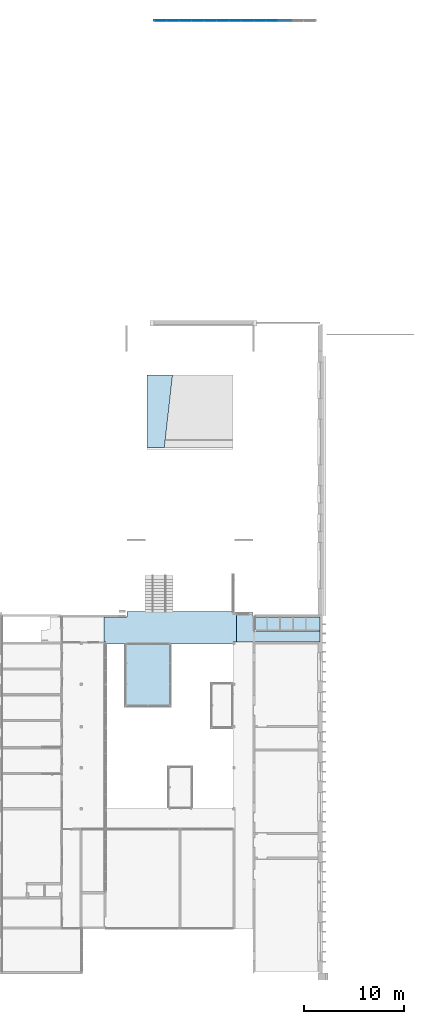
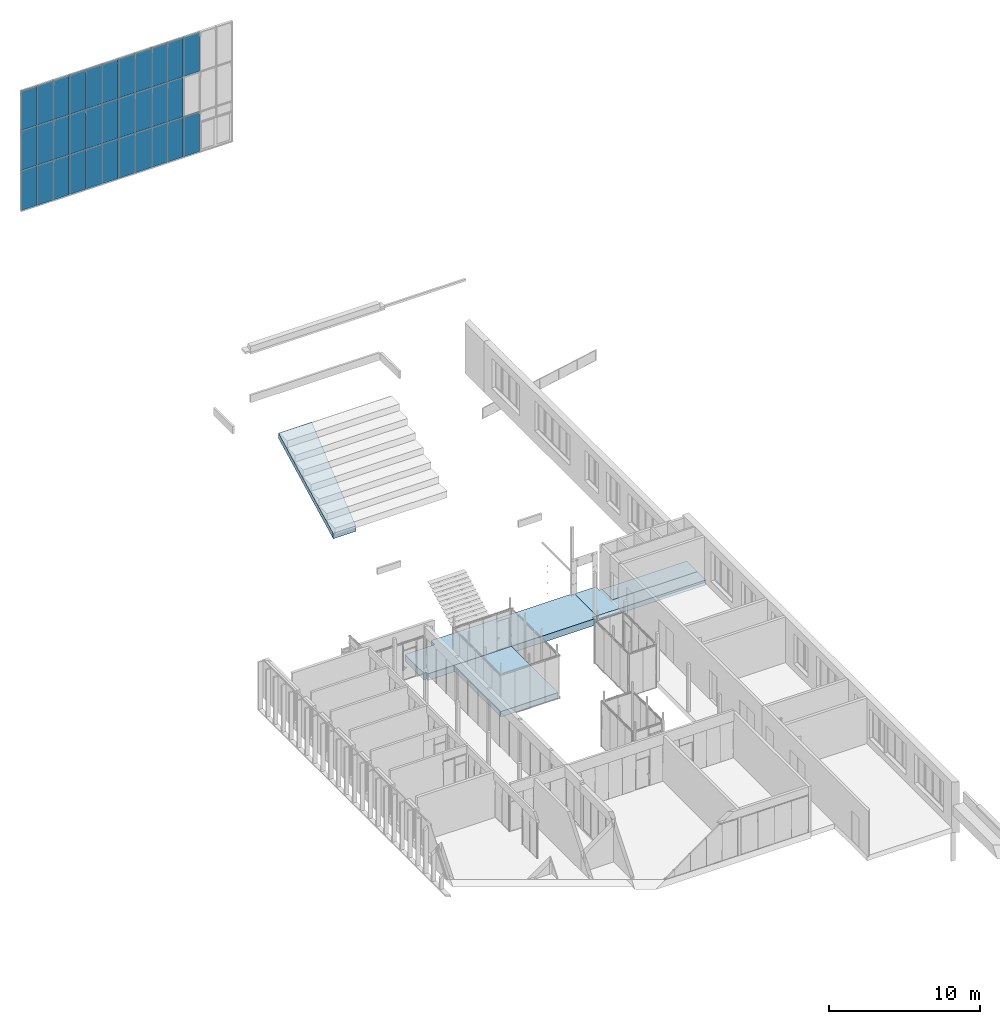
# One storey, part 26 of 387: 32 plates, 5 slabs, 1 element without a shape of its own.
"""IFC2X3 building model written with IfcOpenShell, lengths in millimetres."""

from ifc_helpers import new_model, entity, si_unit, converted_unit, derived_unit, money_unit, direction, frame, origin_with_axes, place, context, subcontext, project, spatial, polyline, outline, extrude, material, layer, layer_set, layer_usage, type_object, element, aggregate, save


model = new_model("IFC2X3")

# Units and contexts
model_context = context("Model", 3, precision=0.01, world=origin_with_axes(), true_north=direction((0.0, 1.0)))
body_context = subcontext(model_context, "Body", "Model", "MODEL_VIEW")
ifc_project = project(units=[si_unit("LENGTHUNIT", "METRE", prefix="MILLI"), si_unit("AREAUNIT", "SQUARE_METRE"), si_unit("VOLUMEUNIT", "CUBIC_METRE"), converted_unit("PLANEANGLEUNIT", "DEGREE", entity("IfcPlaneAngleMeasure", 0.0174532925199), si_unit("PLANEANGLEUNIT", "RADIAN"), dimensions=[0, 0, 0, 0, 0, 0, 0]), si_unit("SOLIDANGLEUNIT", "STERADIAN"), money_unit("EUR"), converted_unit("TIMEUNIT", "Year", entity("IfcTimeMeasure", 31556926.0), si_unit("TIMEUNIT", "SECOND"), dimensions=[0, 0, 1, 0, 0, 0, 0]), si_unit("MASSUNIT", "GRAM", prefix="KILO"), si_unit("THERMODYNAMICTEMPERATUREUNIT", "DEGREE_CELSIUS"), si_unit("LUMINOUSINTENSITYUNIT", "LUMEN"), si_unit("ENERGYUNIT", "JOULE", prefix="MEGA"), derived_unit("THERMALCONDUCTANCEUNIT", [(si_unit("POWERUNIT", "WATT"), 1), (si_unit("LENGTHUNIT", "METRE"), -1), (si_unit("THERMODYNAMICTEMPERATUREUNIT", "KELVIN"), -1)]), derived_unit("SPECIFICHEATCAPACITYUNIT", [(si_unit("ENERGYUNIT", "JOULE"), 1), (si_unit("MASSUNIT", "GRAM", prefix="KILO"), -1), (si_unit("THERMODYNAMICTEMPERATUREUNIT", "KELVIN"), -1)]), derived_unit("MASSDENSITYUNIT", [(si_unit("MASSUNIT", "GRAM", prefix="KILO"), 1), (si_unit("VOLUMEUNIT", "CUBIC_METRE"), -1)])], contexts=[model_context])

# Site, building, storey
site_placement = place(None, origin_with_axes())
site = spatial("IfcSite", under=ifc_project, at=site_placement, Name="Puškini 31, Narva", CompositionType="ELEMENT")
building_placement = place(site_placement, origin_with_axes())
building = spatial("IfcBuilding", under=site, at=building_placement, Name="Narva Riigigümnaasium", CompositionType="ELEMENT")
storey_placement = place(building_placement, frame((0.0, 0.0, 2640.0), z_axis=(0.0, 0.0, 1.0), x_axis=(1.0, 0.0, 0.0)))
storey = spatial("IfcBuildingStorey", under=building, at=storey_placement, Name="2.korrus +2.64", CompositionType="ELEMENT", Elevation=2640.0)

# Curtain wall, plates
curtain_wall_type = type_object("IfcCurtainWallType", Name="Curtain Wall Type", PredefinedType="NOTDEFINED")
curtain_wall_placement = place(storey_placement, frame((50893.5555569, 254360.0, -2029.99998222), z_axis=(0.0, 0.0, 1.0), x_axis=(1.0, 0.0, 0.0)))
curtain_wall = element("IfcCurtainWall", 1, at=curtain_wall_placement, inside=storey, type_object=curtain_wall_type, Name="G-KLF-06")
ifc_material_1 = material(Name="Klaas")
plate_type_1 = type_object("IfcPlateType", Name="Main Panel 1235 x 168 x 58", PredefinedType="CURTAIN_PANEL")
plate_1_placement = place(curtain_wall_placement, frame((0.0, 0.0, 1966.29629224), z_axis=(0.0, 0.0, 1.0), x_axis=(1.0, 0.0, 0.0)))
plate_1 = element("IfcPlate", 2, at=plate_1_placement, type_object=plate_type_1, material=ifc_material_1, Name="G-KLF-05-VU-01", ObjectType="CURTAIN_PANEL", context=body_context, shape_type="SweptSolid", body=[
    extrude(outline(polyline([(-820.222198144, -1312.03707306), (414.444443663, -1312.03707306), (414.444443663, -483.703685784), (406.444453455, -483.703685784), (406.444453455, 1931.29630446), (-820.222198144, 1931.29630446), (-820.222198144, -1312.03707306)])), frame((0.0, -29.0000000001, 0.0), z_axis=(0.0, 1.0, 0.0), x_axis=(1.0, 0.0, 0.0)), (0.0, 0.0, 1.0), 58.0),
])
plate_type_2 = type_object("IfcPlateType", Name="Main Panel 1224 x 168 x 58", PredefinedType="CURTAIN_PANEL")
plate_2_placement = place(curtain_wall_placement, frame((-7685.55555964, 0.0, 2132.77777223), z_axis=(0.0, 0.0, 1.0), x_axis=(1.0, 0.0, 0.0)))
plate_2 = element("IfcPlate", 3, at=plate_2_placement, type_object=plate_type_2, material=ifc_material_1, Name="klaasfassaadi klaas", ObjectType="CURTAIN_PANEL", context=body_context, shape_type="SweptSolid", body=[
    extrude(outline(polyline([(-611.999999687, -1145.55559307), (612.000021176, -1145.55559307), (612.000021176, 2097.77778445), (-611.999999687, 2097.77778445), (-611.999999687, -1145.55559307)])), frame((0.0, -29.0, 0.0), z_axis=(0.0, 1.0, 0.0), x_axis=(1.0, 0.0, 0.0)), (0.0, 0.0, 1.0), 58.0),
])
plate_type_3 = type_object("IfcPlateType", Name="Main Panel 1226 x 168 x 58", PredefinedType="CURTAIN_PANEL")
plate_3_placement = place(curtain_wall_placement, frame((-8930.5555564, 0.0, 2132.77777223), z_axis=(0.0, 0.0, 1.0), x_axis=(1.0, 0.0, 0.0)))
plate_3 = element("IfcPlate", 4, at=plate_3_placement, type_object=plate_type_3, material=ifc_material_1, Name="klaasfassaadi klaas", ObjectType="CURTAIN_PANEL", context=body_context, shape_type="SweptSolid", body=[
    extrude(outline(polyline([(-612.999981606, -1145.55559307), (613.000024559, -1145.55559307), (613.000024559, 2097.77778445), (-612.999981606, 2097.77778445), (-612.999981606, -1145.55559307)])), frame((0.0, -29.0, 0.0), z_axis=(0.0, 1.0, 0.0), x_axis=(1.0, 0.0, 0.0)), (0.0, 0.0, 1.0), 58.0),
])
plate_4_placement = place(curtain_wall_placement, frame((-5192.55555598, 0.0, 2132.77777223), z_axis=(0.0, 0.0, 1.0), x_axis=(1.0, 0.0, 0.0)))
plate_4 = element("IfcPlate", 5, at=plate_4_placement, type_object=plate_type_3, material=ifc_material_1, Name="klaasfassaadi klaas", ObjectType="CURTAIN_PANEL", context=body_context, shape_type="SweptSolid", body=[
    extrude(outline(polyline([(-612.999981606, -1145.55559307), (613.000024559, -1145.55559307), (613.000024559, 2097.77778445), (-612.999981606, 2097.77778445), (-612.999981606, -1145.55559307)])), frame((0.0, -29.0, 0.0), z_axis=(0.0, 1.0, 0.0), x_axis=(1.0, 0.0, 0.0)), (0.0, 0.0, 1.0), 58.0),
])
plate_type_4 = type_object("IfcPlateType", Name="Main Panel 1230 x 168 x 58", PredefinedType="CURTAIN_PANEL")
plate_5_placement = place(curtain_wall_placement, frame((-10333.8055547, 0.0, 2010.62499678), z_axis=(0.0, 0.0, 1.0), x_axis=(1.0, 0.0, 0.0)))
plate_5 = element("IfcPlate", 6, at=plate_5_placement, type_object=plate_type_4, material=ifc_material_1, Name="klaasfassaadi klaas", ObjectType="CURTAIN_PANEL", context=body_context, shape_type="SweptSolid", body=[
    extrude(outline(polyline([(-459.750003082, -1267.70836852), (770.250022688, -1267.70836852), (770.250022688, 1975.62500899), (-459.750003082, 1975.62500899), (-459.750003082, -1267.70836852)])), frame((0.0, -29.0000000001, 0.0), z_axis=(0.0, 1.0, 0.0), x_axis=(1.0, 0.0, 0.0)), (0.0, 0.0, 1.0), 58.0),
])
plate_type_5 = type_object("IfcPlateType", Name="Main Panel 1227 x 168 x 58", PredefinedType="CURTAIN_PANEL")
plate_6_placement = place(curtain_wall_placement, frame((-1298.05554565, 0.0, 2010.62499678), z_axis=(0.0, 0.0, 1.0), x_axis=(1.0, 0.0, 0.0)))
plate_6 = element("IfcPlate", 7, at=plate_6_placement, type_object=plate_type_5, material=ifc_material_1, Name="klaasfassaadi klaas", ObjectType="CURTAIN_PANEL", context=body_context, shape_type="SweptSolid", body=[
    extrude(outline(polyline([(-768.833342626, -1267.70836852), (457.833357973, -1267.70836852), (457.833357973, 1975.62500899), (-768.833342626, 1975.62500899), (-768.833342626, -1267.70836852)])), frame((0.0, -29.0000000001, 0.0), z_axis=(0.0, 1.0, 0.0), x_axis=(1.0, 0.0, 0.0)), (0.0, 0.0, 1.0), 58.0),
])
plate_type_6 = type_object("IfcPlateType", Name="Main Panel 1172 x 168 x 58", PredefinedType="CURTAIN_PANEL")
plate_7_placement = place(curtain_wall_placement, frame((-2523.93055109, 0.0, 2010.62499678), z_axis=(0.0, 0.0, 1.0), x_axis=(1.0, 0.0, 0.0)))
plate_7 = element("IfcPlate", 8, at=plate_7_placement, type_object=plate_type_6, material=ifc_material_1, Name="klaasfassaadi klaas", ObjectType="CURTAIN_PANEL", context=body_context, shape_type="SweptSolid", body=[
    extrude(outline(polyline([(-734.625009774, -1267.70836852), (437.041703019, -1267.70836852), (437.041703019, 1975.62500899), (-734.625009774, 1975.62500899), (-734.625009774, -1267.70836852)])), frame((0.0, -29.0000000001, 0.0), z_axis=(0.0, 1.0, 0.0), x_axis=(1.0, 0.0, 0.0)), (0.0, 0.0, 1.0), 58.0),
])
plate_type_7 = type_object("IfcPlateType", Name="Main Panel 45 x 168 x 58", PredefinedType="CURTAIN_PANEL")
plate_8_placement = place(curtain_wall_placement, frame((-3770.18055738, 0.0, 2010.62499678), z_axis=(0.0, 0.0, 1.0), x_axis=(1.0, 0.0, 0.0)))
plate_8 = element("IfcPlate", 9, at=plate_8_placement, type_object=plate_type_7, material=ifc_material_1, Name="klaasfassaadi klaas", ObjectType="CURTAIN_PANEL", context=body_context, shape_type="SweptSolid", body=[
    extrude(outline(polyline([(-789.375016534, -1267.70836852), (491.624977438, -1267.70836852), (491.625026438, 1975.62500899), (-789.375016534, 1975.62500899), (-789.375016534, -1267.70836852)])), frame((0.0, -29.0000000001, 0.0), z_axis=(0.0, 1.0, 0.0), x_axis=(1.0, 0.0, 0.0)), (0.0, 0.0, 1.0), 58.0),
])
plate_type_8 = type_object("IfcPlateType", Name="Main Panel 12 x 178 x 58", PredefinedType="CURTAIN_PANEL")
plate_9_placement = place(curtain_wall_placement, frame((-6510.8518564, 0.0, 2152.59259056), z_axis=(0.0, 0.0, 1.0), x_axis=(1.0, 0.0, 0.0)))
plate_9 = element("IfcPlate", 10, at=plate_9_placement, type_object=plate_type_8, material=ifc_material_1, Name="klaasfassaadi klaas", ObjectType="CURTAIN_PANEL", context=body_context, shape_type="SweptSolid", body=[
    extrude(outline(polyline([(673.629613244, -1135.74075025), (685.29632484, -1135.74075025), (685.29632484, 2117.59260277), (-542.703715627, 2117.59260277), (-542.703715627, -1125.74077474), (673.629613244, -1125.74077474), (673.629613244, -1135.74075025)])), frame((0.0, -29.0000000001, 0.0), z_axis=(0.0, 1.0, 0.0), x_axis=(1.0, 0.0, 0.0)), (0.0, 0.0, 1.0), 58.0),
])
plate_type_9 = type_object("IfcPlateType", Name="Main Panel 1225 x 168 x 58", PredefinedType="CURTAIN_PANEL")
plate_10_placement = place(curtain_wall_placement, frame((-11580.93056, 0.0, 2010.62499677), z_axis=(0.0, 0.0, 1.0), x_axis=(1.0, 0.0, 0.0)))
plate_10 = element("IfcPlate", 11, at=plate_10_placement, type_object=plate_type_9, material=ifc_material_1, Name="klaasfassaadi klaas", ObjectType="CURTAIN_PANEL", context=body_context, shape_type="SweptSolid", body=[
    extrude(outline(polyline([(-457.625029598, -1267.70836854), (767.375032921, -1267.70836854), (767.375032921, 1975.62500899), (-457.625029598, 1975.62500899), (-457.625029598, -1267.70836854)])), frame((0.0, -29.0000000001, 0.0), z_axis=(0.0, 1.0, 0.0), x_axis=(1.0, 0.0, 0.0)), (0.0, 0.0, 1.0), 58.0),
])
plate_type_10 = type_object("IfcPlateType", Name="Main Panel 1198 x 168 x 58", PredefinedType="CURTAIN_PANEL")
plate_11_placement = place(curtain_wall_placement, frame((-12670.0555637, 0.0, 2132.7777719), z_axis=(0.0, 0.0, 1.0), x_axis=(1.0, 0.0, 0.0)))
plate_11 = element("IfcPlate", 12, at=plate_11_placement, type_object=plate_type_10, material=ifc_material_1, Name="klaasfassaadi klaas", ObjectType="CURTAIN_PANEL", context=body_context, shape_type="SweptSolid", body=[
    extrude(outline(polyline([(-586.499998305, -1145.5555444), (611.50001763, -1145.5555934), (611.50001763, 2097.77778411), (-586.499998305, 2097.77778411), (-586.499998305, -1145.5555444)])), frame((0.0, -29.0, 0.0), z_axis=(0.0, 1.0, 0.0), x_axis=(1.0, 0.0, 0.0)), (0.0, 0.0, 1.0), 58.0),
])
plate_type_11 = type_object("IfcPlateType", Name="Main Panel 1225 x 340 x 58", PredefinedType="CURTAIN_PANEL")
plate_12_placement = place(curtain_wall_placement, frame((-207.88888546, 0.0, 8560.55555302), z_axis=(0.0, 0.0, 1.0), x_axis=(1.0, 0.0, 0.0)))
plate_12 = element("IfcPlate", 13, at=plate_12_placement, type_object=plate_type_11, material=ifc_material_1, Name="klaasfassaadi klaas", ObjectType="CURTAIN_PANEL", context=body_context, shape_type="SweptSolid", body=[
    extrude(outline(polyline([(-612.333317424, -1169.44444398), (612.3333073, -1169.44444398), (612.3333073, -829.444440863), (622.3333301, -829.444440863), (622.3333301, 2023.88885146), (-612.333317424, 2023.88885146), (-612.333317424, -1169.44444398)])), frame((0.0, -29.0, 0.0), z_axis=(0.0, 1.0, 0.0), x_axis=(1.0, 0.0, 0.0)), (0.0, 0.0, 1.0), 58.0),
])
plate_13_placement = place(curtain_wall_placement, frame((-11580.9305593, 0.0, 8456.87500016), z_axis=(0.0, 0.0, 1.0), x_axis=(1.0, 0.0, 0.0)))
plate_13 = element("IfcPlate", 14, at=plate_13_placement, type_object=plate_type_11, material=ifc_material_1, Name="klaasfassaadi klaas", ObjectType="CURTAIN_PANEL", context=body_context, shape_type="SweptSolid", body=[
    extrude(outline(polyline([(-457.625026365, -1273.12499684), (767.374991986, -1273.12499684), (767.374991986, 1920.20829865), (-457.625026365, 1920.20829865), (-457.625026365, -1273.12499684)])), frame((0.0, -29.0000000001, 0.0), z_axis=(0.0, 1.0, 0.0), x_axis=(1.0, 0.0, 0.0)), (0.0, 0.0, 1.0), 58.0),
])
plate_type_12 = type_object("IfcPlateType", Name="Main Panel 1227 x 340 x 58", PredefinedType="CURTAIN_PANEL")
plate_14_placement = place(curtain_wall_placement, frame((-1298.05554334, 0.0, 8456.87500017), z_axis=(0.0, 0.0, 1.0), x_axis=(1.0, 0.0, 0.0)))
plate_14 = element("IfcPlate", 15, at=plate_14_placement, type_object=plate_type_12, material=ifc_material_1, Name="klaasfassaadi klaas", ObjectType="CURTAIN_PANEL", context=body_context, shape_type="SweptSolid", body=[
    extrude(outline(polyline([(-768.8333414, -1273.12499684), (457.833307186, -1273.12499684), (457.833307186, 1920.2082986), (-768.833293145, 1920.2082986), (-768.8333414, -1273.12499684)])), frame((0.0, -29.0000000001, 0.0), z_axis=(0.0, 1.0, 0.0), x_axis=(1.0, 0.0, 0.0)), (0.0, 0.0, 1.0), 58.0),
])
plate_type_13 = type_object("IfcPlateType", Name="Main Panel 1172 x 340 x 58", PredefinedType="CURTAIN_PANEL")
plate_15_placement = place(curtain_wall_placement, frame((-2523.9305506, 0.0, 8456.87500017), z_axis=(0.0, 0.0, 1.0), x_axis=(1.0, 0.0, 0.0)))
plate_15 = element("IfcPlate", 16, at=plate_15_placement, type_object=plate_type_13, material=ifc_material_1, Name="klaasfassaadi klaas", ObjectType="CURTAIN_PANEL", context=body_context, shape_type="SweptSolid", body=[
    extrude(outline(polyline([(-734.625021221, -1273.12499684), (437.041670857, -1273.12499684), (437.041670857, 1920.2082986), (-734.625021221, 1920.2082986), (-734.625021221, -1273.12499684)])), frame((0.0, -29.0000000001, 0.0), z_axis=(0.0, 1.0, 0.0), x_axis=(1.0, 0.0, 0.0)), (0.0, 0.0, 1.0), 58.0),
])
plate_type_14 = type_object("IfcPlateType", Name="Main Panel 1226 x 340 x 58", PredefinedType="CURTAIN_PANEL")
plate_16_placement = place(curtain_wall_placement, frame((-8930.5555564, 0.0, 8560.55555302), z_axis=(0.0, 0.0, 1.0), x_axis=(1.0, 0.0, 0.0)))
plate_16 = element("IfcPlate", 17, at=plate_16_placement, type_object=plate_type_14, material=ifc_material_1, Name="klaasfassaadi klaas", ObjectType="CURTAIN_PANEL", context=body_context, shape_type="SweptSolid", body=[
    extrude(outline(polyline([(-612.999980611, -1169.44444398), (612.999977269, -1169.44444398), (612.999977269, 2023.88885146), (-612.999980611, 2023.88885146), (-612.999980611, -1169.44444398)])), frame((0.0, -29.0, 0.0), z_axis=(0.0, 1.0, 0.0), x_axis=(1.0, 0.0, 0.0)), (0.0, 0.0, 1.0), 58.0),
])
plate_17_placement = place(curtain_wall_placement, frame((-5192.55555598, 0.0, 8560.55555302), z_axis=(0.0, 0.0, 1.0), x_axis=(1.0, 0.0, 0.0)))
plate_17 = element("IfcPlate", 18, at=plate_17_placement, type_object=plate_type_14, material=ifc_material_1, Name="klaasfassaadi klaas", ObjectType="CURTAIN_PANEL", context=body_context, shape_type="SweptSolid", body=[
    extrude(outline(polyline([(-612.999980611, -1169.44444398), (612.999977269, -1169.44444398), (612.999977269, 2023.88885146), (-612.999980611, 2023.88885146), (-612.999980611, -1169.44444398)])), frame((0.0, -29.0, 0.0), z_axis=(0.0, 1.0, 0.0), x_axis=(1.0, 0.0, 0.0)), (0.0, 0.0, 1.0), 58.0),
])
plate_type_15 = type_object("IfcPlateType", Name="Main Panel 1230 x 340 x 58", PredefinedType="CURTAIN_PANEL")
plate_18_placement = place(curtain_wall_placement, frame((-10333.8055526, 0.0, 8456.87500017), z_axis=(0.0, 0.0, 1.0), x_axis=(1.0, 0.0, 0.0)))
plate_18 = element("IfcPlate", 19, at=plate_18_placement, type_object=plate_type_15, material=ifc_material_1, Name="klaasfassaadi klaas", ObjectType="CURTAIN_PANEL", context=body_context, shape_type="SweptSolid", body=[
    extrude(outline(polyline([(-459.749984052, -1273.12499684), (770.249973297, -1273.12499684), (770.249973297, 1920.2082986), (-459.749984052, 1920.2082986), (-459.749984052, -1273.12499684)])), frame((0.0, -29.0000000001, 0.0), z_axis=(0.0, 1.0, 0.0), x_axis=(1.0, 0.0, 0.0)), (0.0, 0.0, 1.0), 58.0),
])
plate_type_16 = type_object("IfcPlateType", Name="Main Panel 1198 x 340 x 58", PredefinedType="CURTAIN_PANEL")
plate_19_placement = place(curtain_wall_placement, frame((-12670.0555656, 0.0, 8560.55554958), z_axis=(0.0, 0.0, 1.0), x_axis=(1.0, 0.0, 0.0)))
plate_19 = element("IfcPlate", 20, at=plate_19_placement, type_object=plate_type_16, material=ifc_material_1, Name="klaasfassaadi klaas", ObjectType="CURTAIN_PANEL", context=body_context, shape_type="SweptSolid", body=[
    extrude(outline(polyline([(-586.499998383, -1169.44444721), (611.499970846, -1169.44444721), (611.499970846, 2023.88886858), (-586.499998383, 2023.88886858), (-586.499998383, -1169.44444721)])), frame((0.0, -29.0, 0.0), z_axis=(0.0, 1.0, 0.0), x_axis=(1.0, 0.0, 0.0)), (0.0, 0.0, 1.0), 58.0),
])
plate_type_17 = type_object("IfcPlateType", Name="Main Panel 1227 x 417 x 58", PredefinedType="CURTAIN_PANEL")
plate_20_placement = place(curtain_wall_placement, frame((-1298.05553881, 0.0, 5205.62500131), z_axis=(0.0, 0.0, 1.0), x_axis=(1.0, 0.0, 0.0)))
plate_20 = element("IfcPlate", 21, at=plate_20_placement, type_object=plate_type_17, material=ifc_material_1, Name="klaasfassaadi klaas", ObjectType="CURTAIN_PANEL", context=body_context, shape_type="SweptSolid", body=[
    extrude(outline(polyline([(-768.833321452, -1311.04165461), (457.83333179, -1311.04165461), (457.83333179, 1907.29163766), (-768.833321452, 1907.29163766), (-768.833321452, -1311.04165461)])), frame((0.0, -29.0000000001, 0.0), z_axis=(0.0, 1.0, 0.0), x_axis=(1.0, 0.0, 0.0)), (0.0, 0.0, 1.0), 58.0),
])
plate_type_18 = type_object("IfcPlateType", Name="Main Panel 1172 x 417 x 58", PredefinedType="CURTAIN_PANEL")
plate_21_placement = place(curtain_wall_placement, frame((-2523.93054912, 0.0, 5205.62500131), z_axis=(0.0, 0.0, 1.0), x_axis=(1.0, 0.0, 0.0)))
plate_21 = element("IfcPlate", 22, at=plate_21_placement, type_object=plate_type_18, material=ifc_material_1, Name="klaasfassaadi klaas", ObjectType="CURTAIN_PANEL", context=body_context, shape_type="SweptSolid", body=[
    extrude(outline(polyline([(-734.625027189, -1311.04165461), (437.041669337, -1311.04165461), (437.041669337, 1907.29163766), (-734.625027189, 1907.29163766), (-734.625027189, -1311.04165461)])), frame((0.0, -29.0000000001, 0.0), z_axis=(0.0, 1.0, 0.0), x_axis=(1.0, 0.0, 0.0)), (0.0, 0.0, 1.0), 58.0),
])
plate_type_19 = type_object("IfcPlateType", Name="Main Panel 1226 x 417 x 58", PredefinedType="CURTAIN_PANEL")
plate_22_placement = place(curtain_wall_placement, frame((-8930.5555564, 0.0, 5304.99999849), z_axis=(0.0, 0.0, 1.0), x_axis=(1.0, 0.0, 0.0)))
plate_22 = element("IfcPlate", 23, at=plate_22_placement, type_object=plate_type_19, material=ifc_material_1, Name="klaasfassaadi klaas", ObjectType="CURTAIN_PANEL", context=body_context, shape_type="SweptSolid", body=[
    extrude(outline(polyline([(-612.999985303, -1211.66665744), (612.999977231, -1211.66665744), (612.999977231, 2006.66663484), (-612.999985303, 2006.66663484), (-612.999985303, -1211.66665744)])), frame((0.0, -29.0, 0.0), z_axis=(0.0, 1.0, 0.0), x_axis=(1.0, 0.0, 0.0)), (0.0, 0.0, 1.0), 58.0),
])
plate_23_placement = place(curtain_wall_placement, frame((-5192.55555598, 0.0, 5304.99999849), z_axis=(0.0, 0.0, 1.0), x_axis=(1.0, 0.0, 0.0)))
plate_23 = element("IfcPlate", 24, at=plate_23_placement, type_object=plate_type_19, material=ifc_material_1, Name="klaasfassaadi klaas", ObjectType="CURTAIN_PANEL", context=body_context, shape_type="SweptSolid", body=[
    extrude(outline(polyline([(-612.999985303, -1211.66665744), (612.999977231, -1211.66665744), (612.999977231, 2006.66663484), (-612.999985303, 2006.66663484), (-612.999985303, -1211.66665744)])), frame((0.0, -29.0, 0.0), z_axis=(0.0, 1.0, 0.0), x_axis=(1.0, 0.0, 0.0)), (0.0, 0.0, 1.0), 58.0),
])
plate_type_20 = type_object("IfcPlateType", Name="Main Panel 1230 x 417 x 58", PredefinedType="CURTAIN_PANEL")
plate_24_placement = place(curtain_wall_placement, frame((-10333.8055529, 0.0, 5205.62500131), z_axis=(0.0, 0.0, 1.0), x_axis=(1.0, 0.0, 0.0)))
plate_24 = element("IfcPlate", 25, at=plate_24_placement, type_object=plate_type_20, material=ifc_material_1, Name="klaasfassaadi klaas", ObjectType="CURTAIN_PANEL", context=body_context, shape_type="SweptSolid", body=[
    extrude(outline(polyline([(-459.749988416, -1311.04165461), (770.249973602, -1311.04165461), (770.249973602, 1907.29163766), (-459.749988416, 1907.29163766), (-459.749988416, -1311.04165461)])), frame((0.0, -29.0000000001, 0.0), z_axis=(0.0, 1.0, 0.0), x_axis=(1.0, 0.0, 0.0)), (0.0, 0.0, 1.0), 58.0),
])
plate_type_21 = type_object("IfcPlateType", Name="Main Panel 45 x 417 x 58", PredefinedType="CURTAIN_PANEL")
plate_25_placement = place(curtain_wall_placement, frame((-3770.18055932, 0.0, 5205.62500131), z_axis=(0.0, 0.0, 1.0), x_axis=(1.0, 0.0, 0.0)))
plate_25 = element("IfcPlate", 26, at=plate_25_placement, type_object=plate_type_21, material=ifc_material_1, Name="klaasfassaadi klaas", ObjectType="CURTAIN_PANEL", context=body_context, shape_type="SweptSolid", body=[
    extrude(outline(polyline([(-789.374989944, -1311.04165461), (491.624977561, -1311.04165461), (491.624977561, 1907.29163766), (-789.374989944, 1907.29163766), (-789.374989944, -1311.04165461)])), frame((0.0, -29.0000000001, 0.0), z_axis=(0.0, 1.0, 0.0), x_axis=(1.0, 0.0, 0.0)), (0.0, 0.0, 1.0), 58.0),
])
plate_type_22 = type_object("IfcPlateType", Name="Main Panel 45 x 340 x 58", PredefinedType="CURTAIN_PANEL")
plate_26_placement = place(curtain_wall_placement, frame((-3770.18056047, 0.0, 8456.87500017), z_axis=(0.0, 0.0, 1.0), x_axis=(1.0, 0.0, 0.0)))
plate_26 = element("IfcPlate", 27, at=plate_26_placement, type_object=plate_type_22, material=ifc_material_1, Name="klaasfassaadi klaas", ObjectType="CURTAIN_PANEL", context=body_context, shape_type="SweptSolid", body=[
    extrude(outline(polyline([(-789.374974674, -1273.12499684), (491.624987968, -1273.12499684), (491.624987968, 1920.2082986), (-789.374974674, 1920.2082986), (-789.374974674, -1273.12499684)])), frame((0.0, -29.0000000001, 0.0), z_axis=(0.0, 1.0, 0.0), x_axis=(1.0, 0.0, 0.0)), (0.0, 0.0, 1.0), 58.0),
])
plate_type_23 = type_object("IfcPlateType", Name="Main Panel 1228 x 417 x 58", PredefinedType="CURTAIN_PANEL")
plate_27_placement = place(curtain_wall_placement, frame((-6510.85185901, 0.0, 4992.59259459), z_axis=(0.0, 0.0, 1.0), x_axis=(1.0, 0.0, 0.0)))
plate_27 = element("IfcPlate", 28, at=plate_27_placement, type_object=plate_type_23, material=ifc_material_1, Name="klaasfassaadi klaas", ObjectType="CURTAIN_PANEL", context=body_context, shape_type="SweptSolid", body=[
    extrude(outline(polyline([(-542.703706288, -1524.07406134), (685.296280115, -1524.07406134), (685.296280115, 1704.25925378), (673.629627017, 1704.25925378), (673.629627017, 1694.25923094), (-542.703706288, 1694.25923094), (-542.703706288, -1524.07406134)])), frame((0.0, -29.0000000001, 0.0), z_axis=(0.0, 1.0, 0.0), x_axis=(1.0, 0.0, 0.0)), (0.0, 0.0, 1.0), 58.0),
])
plate_type_24 = type_object("IfcPlateType", Name="Main Panel 1228 x 340 x 58", PredefinedType="CURTAIN_PANEL")
plate_28_placement = place(curtain_wall_placement, frame((-6595.05555943, 0.0, 8456.87500017), z_axis=(0.0, 0.0, 1.0), x_axis=(1.0, 0.0, 0.0)))
plate_28 = element("IfcPlate", 29, at=plate_28_placement, type_object=plate_type_24, material=ifc_material_1, Name="klaasfassaadi klaas", ObjectType="CURTAIN_PANEL", context=body_context, shape_type="SweptSolid", body=[
    extrude(outline(polyline([(-458.500001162, -1273.12499684), (769.49998058, -1273.12499684), (769.49998058, 1920.2082986), (-458.500001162, 1920.2082986), (-458.500001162, -1273.12499684)])), frame((0.0, -29.0000000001, 0.0), z_axis=(0.0, 1.0, 0.0), x_axis=(1.0, 0.0, 0.0)), (0.0, 0.0, 1.0), 58.0),
])
plate_type_25 = type_object("IfcPlateType", Name="Main Panel 1224 x 340 x 58", PredefinedType="CURTAIN_PANEL")
plate_29_placement = place(curtain_wall_placement, frame((-7685.55556065, 0.0, 8560.55555302), z_axis=(0.0, 0.0, 1.0), x_axis=(1.0, 0.0, 0.0)))
plate_29 = element("IfcPlate", 30, at=plate_29_placement, type_object=plate_type_25, material=ifc_material_1, Name="klaasfassaadi klaas", ObjectType="CURTAIN_PANEL", context=body_context, shape_type="SweptSolid", body=[
    extrude(outline(polyline([(-612.000004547, -1169.44444398), (611.999977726, -1169.44444398), (611.999977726, 2023.88885146), (-612.000004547, 2023.88885146), (-612.000004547, -1169.44444398)])), frame((0.0, -29.0, 0.0), z_axis=(0.0, 1.0, 0.0), x_axis=(1.0, 0.0, 0.0)), (0.0, 0.0, 1.0), 58.0),
])
plate_type_26 = type_object("IfcPlateType", Name="Main Panel 1224 x 417 x 58", PredefinedType="CURTAIN_PANEL")
plate_30_placement = place(curtain_wall_placement, frame((-7685.55556355, 0.0, 5304.99999849), z_axis=(0.0, 0.0, 1.0), x_axis=(1.0, 0.0, 0.0)))
plate_30 = element("IfcPlate", 31, at=plate_30_placement, type_object=plate_type_26, material=ifc_material_1, Name="klaasfassaadi klaas", ObjectType="CURTAIN_PANEL", context=body_context, shape_type="SweptSolid", body=[
    extrude(outline(polyline([(-612.000009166, -1211.66665744), (611.999977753, -1211.66665744), (611.999977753, 2006.66663484), (-612.000009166, 2006.66663484), (-612.000009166, -1211.66665744)])), frame((0.0, -29.0, 0.0), z_axis=(0.0, 1.0, 0.0), x_axis=(1.0, 0.0, 0.0)), (0.0, 0.0, 1.0), 58.0),
])
plate_type_27 = type_object("IfcPlateType", Name="Main Panel 1225 x 417 x 58", PredefinedType="CURTAIN_PANEL")
plate_31_placement = place(curtain_wall_placement, frame((-11580.9305604, 0.0, 5205.6250013), z_axis=(0.0, 0.0, 1.0), x_axis=(1.0, 0.0, 0.0)))
plate_31 = element("IfcPlate", 32, at=plate_31_placement, type_object=plate_type_27, material=ifc_material_1, Name="klaasfassaadi klaas", ObjectType="CURTAIN_PANEL", context=body_context, shape_type="SweptSolid", body=[
    extrude(outline(polyline([(-457.625029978, -1311.04165474), (767.374993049, -1311.04165474), (767.374993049, 1907.29163766), (-457.625029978, 1907.29163766), (-457.625029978, -1311.04165474)])), frame((0.0, -29.0000000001, 0.0), z_axis=(0.0, 1.0, 0.0), x_axis=(1.0, 0.0, 0.0)), (0.0, 0.0, 1.0), 58.0),
])
plate_type_28 = type_object("IfcPlateType", Name="Main Panel 1198 x 417 x 58", PredefinedType="CURTAIN_PANEL")
plate_32_placement = place(curtain_wall_placement, frame((-12670.0555667, 0.0, 5304.99999471), z_axis=(0.0, 0.0, 1.0), x_axis=(1.0, 0.0, 0.0)))
plate_32 = element("IfcPlate", 33, at=plate_32_placement, type_object=plate_type_28, material=ifc_material_1, Name="klaasfassaadi klaas", ObjectType="CURTAIN_PANEL", context=body_context, shape_type="SweptSolid", body=[
    extrude(outline(polyline([(-586.499993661, -1211.66666116), (611.499973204, -1211.66666116), (611.499973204, 2006.66663305), (-586.499993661, 2006.66663305), (-586.499993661, -1211.66666116)])), frame((0.0, -29.0, 0.0), z_axis=(0.0, 1.0, 0.0), x_axis=(1.0, 0.0, 0.0)), (0.0, 0.0, 1.0), 58.0),
])
aggregate(curtain_wall, [plate_1, plate_2, plate_3, plate_5, plate_6, plate_7, plate_8, plate_4, plate_9, plate_10, plate_11, plate_12, plate_14, plate_15, plate_16, plate_18, plate_19, plate_20, plate_21, plate_22, plate_24, plate_25, plate_26, plate_17, plate_23, plate_27, plate_28, plate_29, plate_30, plate_13, plate_31, plate_32])

# Slabs
ifc_material_2 = material(Name="KON-04_Betoon - Konstuktsioon")
ifc_layer_1 = layer(ifc_material_2, 90.0, ventilated="UNKNOWN")
ifc_material_3 = material(Name="SOJ-04_Soojustus - Mineraal Kõva")
ifc_layer_2 = layer(ifc_material_3, 30.0, ventilated="UNKNOWN")
ifc_material_4 = material(Name="SOJ-06_Soojustus - Plastik Kõva")
ifc_layer_3 = layer(ifc_material_4, 20.0, ventilated="UNKNOWN")
ifc_material_5 = material(Name="Betoon element")
ifc_layer_4 = layer(ifc_material_5, 265.0, ventilated="UNKNOWN")
ifc_layer_set_1 = layer_set([ifc_layer_1, ifc_layer_2, ifc_layer_3, ifc_layer_4], Name="G-VL-02*")
ifc_layer_usage_1 = layer_usage(ifc_layer_set_1, "AXIS3", "NEGATIVE", 405.0)
slab_type_1 = type_object("IfcSlabType", Name="G-VL-02* 405", PredefinedType="NOTDEFINED")
slab_1_placement = place(storey_placement, frame((47499.9999543, 195150.0, 0.0), z_axis=(0.0, 0.0, 1.0), x_axis=(1.0, 0.0, 0.0)))
element("IfcSlab", 34, at=slab_1_placement, inside=storey, type_object=slab_type_1, material=ifc_layer_usage_1, Name="Vahelagi", PredefinedType="NOTDEFINED", context=body_context, shape_type="SweptSolid", body=[
    extrude(outline(polyline([(0.0, 0.0), (-1649.99995427, 0.0), (-1649.99995427, -2970.00000001), (6700.00004054, -2970.00000001), (6700.00004054, -1860.00000037), (200.000042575, -1860.00000037), (200.000039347, -450.000000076), (0.0, -449.99996805), (0.0, 0.0)])), frame((0.0, 0.0, -405.0), z_axis=(0.0, 0.0, 1.0), x_axis=(1.0, 0.0, 0.0)), (0.0, 0.0, 1.0), 405.0),
])
ifc_material_6 = material(Name="Salto-põrandakate")
ifc_layer_5 = layer(ifc_material_6, 10.0, ventilated="UNKNOWN")
ifc_layer_6 = layer(ifc_material_2, 80.0, ventilated="UNKNOWN")
ifc_layer_set_2 = layer_set([ifc_layer_5, ifc_layer_6, ifc_layer_2, ifc_layer_3, ifc_layer_4], Name="G-VL-02")
ifc_layer_usage_2 = layer_usage(ifc_layer_set_2, "AXIS3", "NEGATIVE", 405.0)
slab_type_2 = type_object("IfcSlabType", Name="G-VL-02 405", PredefinedType="NOTDEFINED")
slab_2_placement = place(storey_placement, frame((47700.0000279, 193290.0, 0.0), z_axis=(0.0, 0.0, 1.0), x_axis=(1.0, 0.0, 0.0)))
element("IfcSlab", 35, at=slab_2_placement, inside=storey, type_object=slab_type_2, material=ifc_layer_usage_2, Name="Vahelagi", PredefinedType="NOTDEFINED", context=body_context, shape_type="SweptSolid", body=[
    extrude(outline(polyline([(0.0, 0.0), (6499.9999669, 0.0), (6499.9999669, 1410.00003232), (0.0, 1410.00003232), (0.0, 0.0)])), frame((0.0, 0.0, -405.0), z_axis=(0.0, 0.0, 1.0), x_axis=(1.0, 0.0, 0.0)), (0.0, 0.0, 1.0), 405.0),
])
ifc_layer_7 = layer(ifc_material_5, 400.0, ventilated="UNKNOWN")
ifc_layer_set_3 = layer_set([ifc_layer_1, ifc_layer_2, ifc_layer_3, ifc_layer_7], Name="G-VL-05*")
ifc_layer_usage_3 = layer_usage(ifc_layer_set_3, "AXIS3", "NEGATIVE", 540.0)
slab_type_3 = type_object("IfcSlabType", Name="G-VL-05* 540", PredefinedType="NOTDEFINED")
slab_3_placement = place(storey_placement, frame((34900.0000924, 194700.000043, 0.0), z_axis=(0.0, 0.0, 1.0), x_axis=(1.0, 0.0, 0.0)))
element("IfcSlab", 36, at=slab_3_placement, inside=storey, type_object=slab_type_3, material=ifc_layer_usage_3, Name="Vahelagi", PredefinedType="NOTDEFINED", context=body_context, shape_type="SweptSolid", body=[
    extrude(outline(polyline([(0.0, 0.0), (-2300.00009103, 0.0), (-2300.00009103, -2520.00004338), (-2100.00005066, -2520.00004338), (-2100.00005066, -2719.97351735), (10599.9998659, -2719.97351735), (10599.9998659, -2520.00004338), (10949.9999076, -2520.00004338), (10949.9999076, 449.999956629), (10599.9999062, 449.999956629), (10599.9999062, 529.487398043), (0.0, 529.487398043), (0.0, 0.0)])), frame((0.0, 0.0, -540.0), z_axis=(0.0, 0.0, 1.0), x_axis=(1.0, 0.0, 0.0)), (0.0, 0.0, 1.0), 540.0),
])
ifc_material_7 = material(Name="SKR-02_Kipsplaat")
ifc_layer_8 = layer(ifc_material_7, 15.0, ventilated="UNKNOWN")
ifc_layer_9 = layer(ifc_material_3, 20.0, ventilated="UNKNOWN")
ifc_material_8 = material(Name="SKR-04_Puitplaat")
ifc_layer_10 = layer(ifc_material_8, 22.0, ventilated="UNKNOWN")
ifc_material_9 = material(Name="SOJ-01_Soojustus - Fiiber Pehme")
ifc_layer_11 = layer(ifc_material_9, 245.0, ventilated="UNKNOWN")
ifc_layer_12 = layer(ifc_material_8, 25.0, ventilated="UNKNOWN")
ifc_layer_13 = layer(ifc_material_9, 66.0, ventilated="UNKNOWN")
ifc_layer_14 = layer(ifc_material_7, 12.0, ventilated="UNKNOWN")
ifc_layer_15 = layer(ifc_material_7, 13.0, ventilated="UNKNOWN")
ifc_layer_set_4 = layer_set([ifc_layer_5, ifc_layer_8, ifc_layer_8, ifc_layer_9, ifc_layer_10, ifc_layer_11, ifc_layer_12, ifc_layer_13, ifc_layer_14, ifc_layer_15], Name="G-VL-06")
ifc_layer_usage_4 = layer_usage(ifc_layer_set_4, "AXIS3", "NEGATIVE", 443.0)
slab_type_4 = type_object("IfcSlabType", Name="G-VL-06 443", PredefinedType="NOTDEFINED")
slab_4_placement = place(storey_placement, frame((34800.0000005, 191980.026526, 0.0), z_axis=(0.0, 0.0, 1.0), x_axis=(1.0, 0.0, 0.0)))
element("IfcSlab", 37, at=slab_4_placement, inside=storey, type_object=slab_type_4, material=ifc_layer_usage_4, Name="Vahelagi", PredefinedType="NOTDEFINED", context=body_context, shape_type="SweptSolid", body=[
    extrude(outline(polyline([(0.0, 0.0), (0.0, -6185.02652102), (4400.00000128, -6185.02652102), (4400.00000128, 0.0), (0.0, 0.0)])), frame((0.0, 0.0, -443.0), z_axis=(0.0, 0.0, 1.0), x_axis=(1.0, 0.0, 0.0)), (0.0, 0.0, 1.0), 443.0),
])
ifc_material_10 = material(Name="SOJ-03_Soojustus - Mineraal Pehme")
ifc_layer_16 = layer(ifc_material_10, 300.0, ventilated="UNKNOWN")
ifc_layer_17 = layer(ifc_material_10, 50.0, ventilated="UNKNOWN")
ifc_layer_set_5 = layer_set([ifc_layer_16, ifc_layer_17, ifc_layer_8, ifc_layer_8], Name="G-VL-09")
ifc_layer_usage_5 = layer_usage(ifc_layer_set_5, "AXIS3", "NEGATIVE", 380.0)
slab_type_5 = type_object("IfcSlabType", Name="G-VL-09 380", PredefinedType="NOTDEFINED")
slab_5_placement = place(storey_placement, frame((36899.9999994, 211645.421628, -2417.30827064), z_axis=(0.0, 0.0, 1.0), x_axis=(1.0, 0.0, 0.0)))
element("IfcSlab", 38, at=slab_5_placement, inside=storey, type_object=slab_type_5, material=ifc_layer_usage_5, Name="Katus", PredefinedType="NOTDEFINED", context=body_context, shape_type="SweptSolid", body=[
    extrude(outline(polyline([(0.0, 0.0), (1733.11769027, 1.3429625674e-07), (2549.79973932, 8157.73966371), (-4.99909447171e-07, 8157.73966351), (0.0, 0.0)])), frame((0.0, 0.0, 0.0), z_axis=(0.0, -0.457348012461, 0.8892878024), x_axis=(1.0, 0.0, 0.0)), (0.0, 0.457348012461, 0.8892878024), 427.308233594),
])

save(model, "model.ifc")
